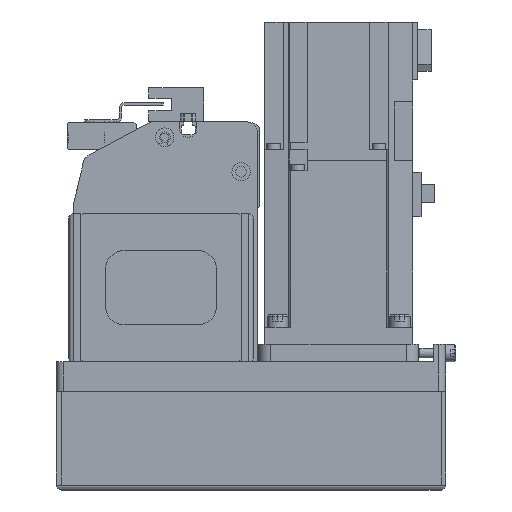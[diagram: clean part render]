
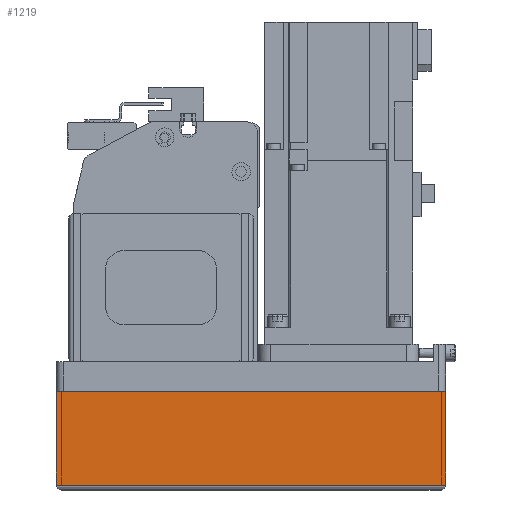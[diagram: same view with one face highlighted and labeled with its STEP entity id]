
A CAD part, left-side view. The second image highlights one B-rep face of the part: STEP entity #1219.
In plain terms, the highlighted planar face has unit normal (-1, 0, 0) as drawn and (0, 1, 0) by its records, which use the part's own axes.
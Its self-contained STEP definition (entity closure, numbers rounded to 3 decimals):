
#1219 = ADVANCED_FACE( '', ( #3381 ), #3382, .T. );
#3381 = FACE_OUTER_BOUND( '', #6874, .T. );
#3382 = PLANE( '', #6875 );
#6874 = EDGE_LOOP( '', ( #10387, #10388, #10389, #10390 ) );
#6875 = AXIS2_PLACEMENT_3D( '', #10391, #10392, #10393 );
#10387 = ORIENTED_EDGE( '', *, *, #19590, .F. );
#10388 = ORIENTED_EDGE( '', *, *, #19591, .F. );
#10389 = ORIENTED_EDGE( '', *, *, #19592, .T. );
#10390 = ORIENTED_EDGE( '', *, *, #19593, .T. );
#10391 = CARTESIAN_POINT( '', ( -158., 39., -50. ) );
#10392 = DIRECTION( '', ( 0., 1., 0. ) );
#10393 = DIRECTION( '', ( 0., 0., 1. ) );
#19590 = EDGE_CURVE( '', #23179, #23180, #23181, .T. );
#19591 = EDGE_CURVE( '', #23182, #23179, #23183, .T. );
#19592 = EDGE_CURVE( '', #23182, #23184, #23185, .T. );
#19593 = EDGE_CURVE( '', #23184, #23180, #23186, .T. );
#23179 = VERTEX_POINT( '', #28513 );
#23180 = VERTEX_POINT( '', #28514 );
#23181 = LINE( '', #28515, #28516 );
#23182 = VERTEX_POINT( '', #28517 );
#23183 = LINE( '', #28518, #28519 );
#23184 = VERTEX_POINT( '', #28520 );
#23185 = LINE( '', #28521, #28522 );
#23186 = LINE( '', #28523, #28524 );
#28513 = CARTESIAN_POINT( '', ( 0., 39., -50. ) );
#28514 = CARTESIAN_POINT( '', ( 0., 39., -12.1 ) );
#28515 = CARTESIAN_POINT( '', ( 0., 39., -50. ) );
#28516 = VECTOR( '', #36654, 1000. );
#28517 = CARTESIAN_POINT( '', ( -158., 39., -50. ) );
#28518 = CARTESIAN_POINT( '', ( -158., 39., -50. ) );
#28519 = VECTOR( '', #36655, 1000. );
#28520 = CARTESIAN_POINT( '', ( -158., 39., -12.1 ) );
#28521 = CARTESIAN_POINT( '', ( -158., 39., -50. ) );
#28522 = VECTOR( '', #36656, 1000. );
#28523 = CARTESIAN_POINT( '', ( -158., 39., -12.1 ) );
#28524 = VECTOR( '', #36657, 1000. );
#36654 = DIRECTION( '', ( 0., 0., 1. ) );
#36655 = DIRECTION( '', ( 1., 0., 0. ) );
#36656 = DIRECTION( '', ( 0., 0., 1. ) );
#36657 = DIRECTION( '', ( 1., 0., 0. ) );
